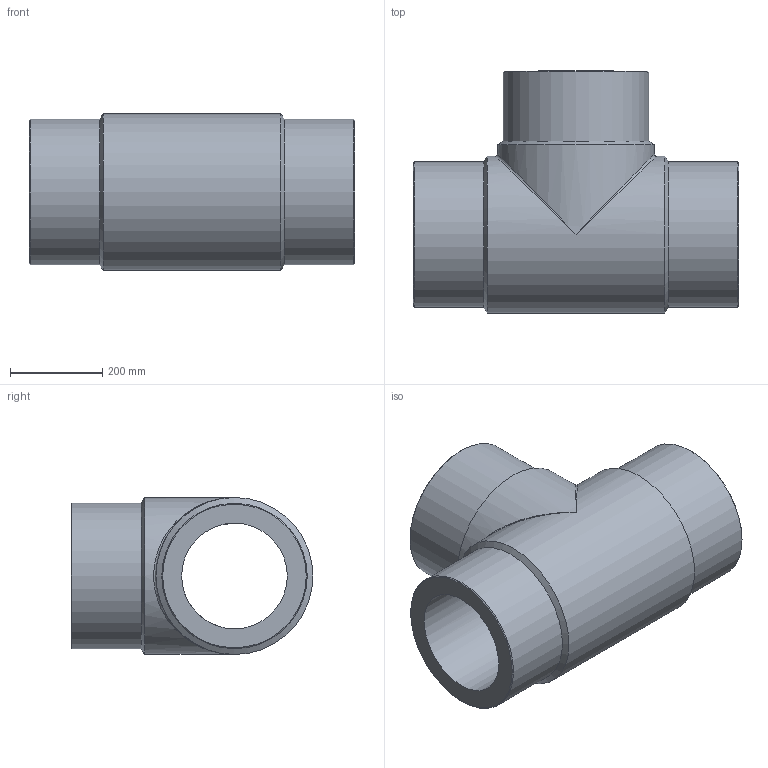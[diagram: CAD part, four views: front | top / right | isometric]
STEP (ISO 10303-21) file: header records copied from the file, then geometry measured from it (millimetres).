
FILE_DESCRIPTION(/* description */ ('Unknown'),/* implementation_level */ '2;1');
FILE_NAME(/* name */ 'TP315H',/* time_stamp */ '2021-08-07T09:25:32+02:00',/* author */ ('Unknown'),/* organization */ ('Unknown'),/* preprocessor_version */ 'ST-DEVELOPER v16.7',/* originating_system */ 'Solid Edge',/* authorisation */ 'Unknown');
FILE_SCHEMA (('AUTOMOTIVE_DESIGN {1 0 10303 214 3 1 1}'));
Length unit declared in the file: millimetre
Products named in the file (1): TP315H
Bounding box: 704 x 524 x 340 mm (x, y, z)
Volume: 37434624.1 mm3; surface area: 1645879.3 mm2
Topology: 1 solids, 1 shells, 18 faces, 44 edges, 23 vertices
Faces by surface type: cylinder 7, cone 6, plane 3, bspline 2
Full cylindrical faces by diameter (mm): 228.8 x2, 315 x3, 340 x2
Entity records: 528 total; most frequent: CARTESIAN_POINT 171, DIRECTION 76, ORIENTED_EDGE 42, AXIS2_PLACEMENT_3D 38, EDGE_LOOP 36, FACE_BOUND 36, EDGE_CURVE 21, VERTEX_POINT 19
